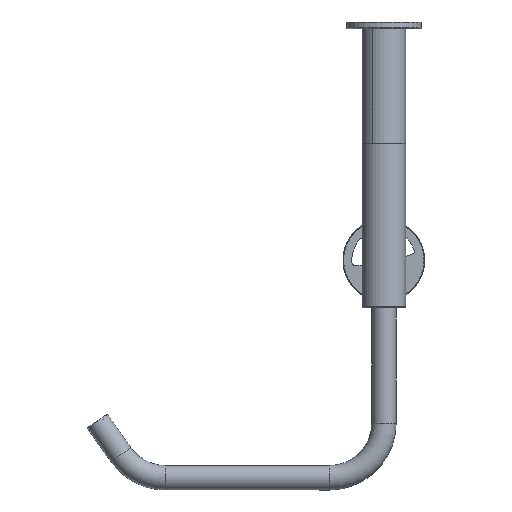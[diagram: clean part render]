
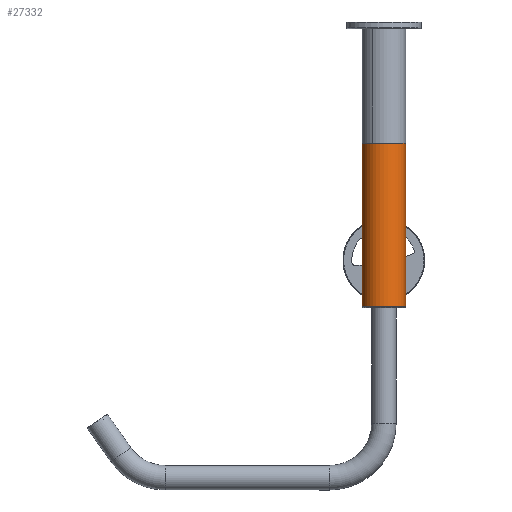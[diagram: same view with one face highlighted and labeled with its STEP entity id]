
A CAD part, left-side view. The second image highlights one B-rep face of the part: STEP entity #27332.
In plain terms, the highlighted cylindrical face has radius 16 mm (diameter 32 mm), a partial arc.
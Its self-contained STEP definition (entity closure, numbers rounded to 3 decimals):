
#2872 = CARTESIAN_POINT ( 'NONE',  ( 16., 0., 0. ) ) ;
#5002 = VECTOR ( 'NONE', #39738, 1000. ) ;
#5726 = EDGE_CURVE ( 'NONE', #9673, #9918, #14774, .T. ) ;
#6422 = VERTEX_POINT ( 'NONE', #32869 ) ;
#7434 = FACE_OUTER_BOUND ( 'NONE', #43477, .T. ) ;
#9673 = VERTEX_POINT ( 'NONE', #20988 ) ;
#9918 = VERTEX_POINT ( 'NONE', #13380 ) ;
#10046 = DIRECTION ( 'NONE',  ( 0., 0., 1. ) ) ;
#11534 = CARTESIAN_POINT ( 'NONE',  ( 0., 0., 120. ) ) ;
#12719 = DIRECTION ( 'NONE',  ( 1., 0., 0. ) ) ;
#13380 = CARTESIAN_POINT ( 'NONE',  ( -16., 0., 0. ) ) ;
#14774 = LINE ( 'NONE', #29391, #5002 ) ;
#15567 = CARTESIAN_POINT ( 'NONE',  ( 0., 0., 120. ) ) ;
#20266 = LINE ( 'NONE', #59506, #26291 ) ;
#20988 = CARTESIAN_POINT ( 'NONE',  ( -16., 0., 120. ) ) ;
#22378 = CIRCLE ( 'NONE', #35819, 16. ) ;
#23246 = ORIENTED_EDGE ( 'NONE', *, *, #60759, .F. ) ;
#23320 = CYLINDRICAL_SURFACE ( 'NONE', #42883, 16. ) ;
#24118 = AXIS2_PLACEMENT_3D ( 'NONE', #55897, #31910, #12719 ) ;
#25740 = ORIENTED_EDGE ( 'NONE', *, *, #27378, .F. ) ;
#26291 = VECTOR ( 'NONE', #40830, 1000. ) ;
#27332 = ADVANCED_FACE ( 'NONE', ( #7434 ), #23320, .T. ) ;
#27378 = EDGE_CURVE ( 'NONE', #6422, #35256, #20266, .T. ) ;
#29391 = CARTESIAN_POINT ( 'NONE',  ( -16., 0., 120. ) ) ;
#30940 = ORIENTED_EDGE ( 'NONE', *, *, #5726, .T. ) ;
#31910 = DIRECTION ( 'NONE',  ( 0., 0., 1. ) ) ;
#32149 = CIRCLE ( 'NONE', #24118, 16. ) ;
#32869 = CARTESIAN_POINT ( 'NONE',  ( 16., 0., 120. ) ) ;
#35256 = VERTEX_POINT ( 'NONE', #2872 ) ;
#35819 = AXIS2_PLACEMENT_3D ( 'NONE', #15567, #10046, #39576 ) ;
#39576 = DIRECTION ( 'NONE',  ( 1., 0., 0. ) ) ;
#39738 = DIRECTION ( 'NONE',  ( 0., 0., -1. ) ) ;
#40029 = DIRECTION ( 'NONE',  ( 0., 0., -1. ) ) ;
#40830 = DIRECTION ( 'NONE',  ( 0., 0., -1. ) ) ;
#42378 = EDGE_CURVE ( 'NONE', #9918, #35256, #32149, .T. ) ;
#42883 = AXIS2_PLACEMENT_3D ( 'NONE', #11534, #40029, #59297 ) ;
#43477 = EDGE_LOOP ( 'NONE', ( #25740, #23246, #30940, #52299 ) ) ;
#52299 = ORIENTED_EDGE ( 'NONE', *, *, #42378, .T. ) ;
#55897 = CARTESIAN_POINT ( 'NONE',  ( 0., 0., 0. ) ) ;
#59297 = DIRECTION ( 'NONE',  ( -1., 0., 0. ) ) ;
#59506 = CARTESIAN_POINT ( 'NONE',  ( 16., 0., 120. ) ) ;
#60759 = EDGE_CURVE ( 'NONE', #9673, #6422, #22378, .T. ) ;
